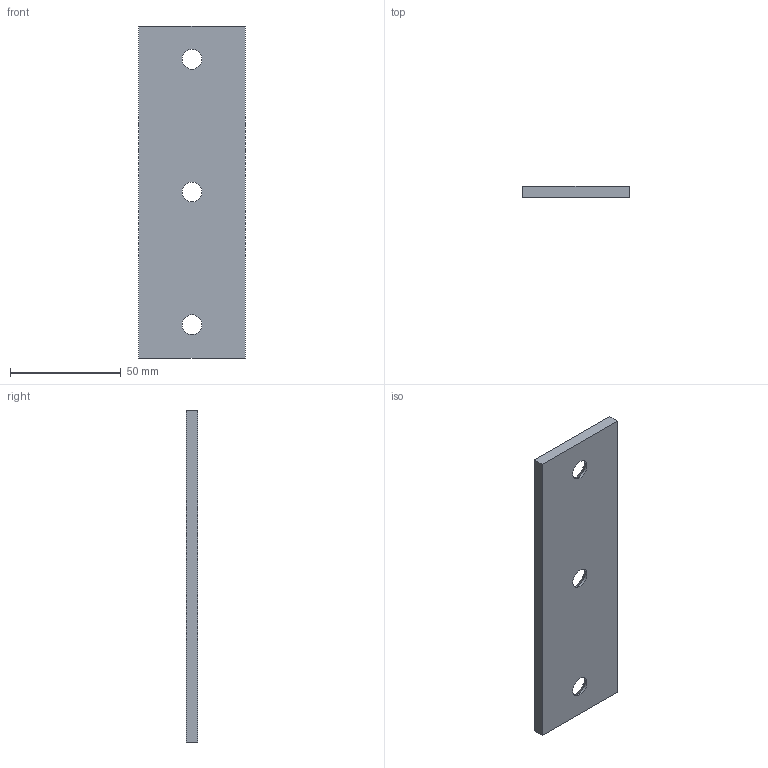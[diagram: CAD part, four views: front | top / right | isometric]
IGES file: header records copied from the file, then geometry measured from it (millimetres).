
Start section: Data from Parasolid IGES Translator 20.0.26, Copyright(c) 2006 Siemens P LM Software. All Rights Reserved.
Global section: file name: P605-01-048-150.igs; native system: By Siemens PLM Incorporated; preprocessor: XPlus GENERIC/IGES 20.0.26; author: Noname; organization: Noname; date: 20190705.145951; units: millimetre
Bounding box: 48 x 5 x 150 mm (x, y, z)
Surface area: 16286.1 mm2 (no closed solid volume)
Topology: 0 solids, 0 shells, 12 faces, 54 edges, 49 vertices
Faces by surface type: extrusion 6, revolution 6
